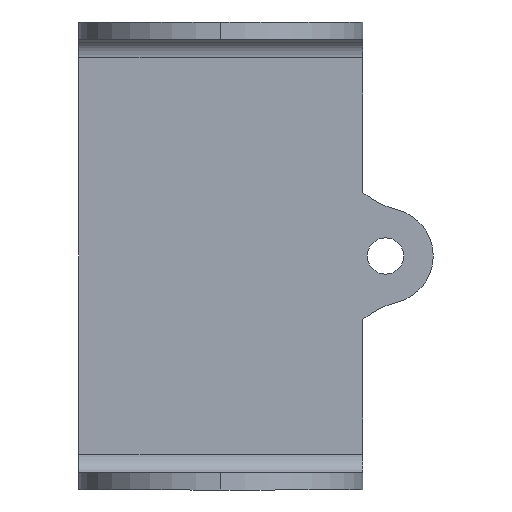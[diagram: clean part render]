
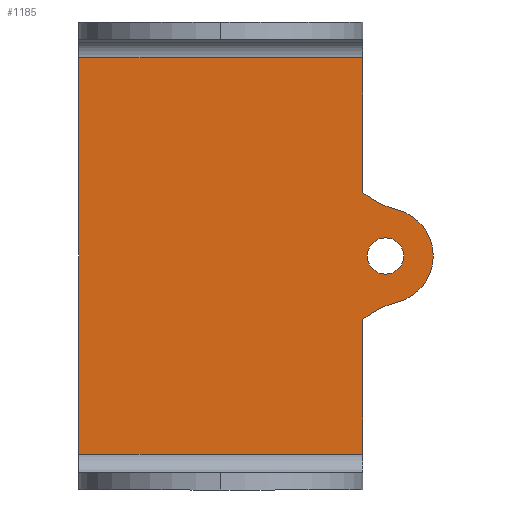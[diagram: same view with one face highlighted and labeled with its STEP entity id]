
A CAD part, front view. The second image highlights one B-rep face of the part: STEP entity #1185.
In plain terms, the highlighted planar face has unit normal (0, -1, 0).
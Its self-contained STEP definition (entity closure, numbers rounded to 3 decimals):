
#1 = VECTOR ( 'NONE', #1563, 1000. ) ;
#4 = AXIS2_PLACEMENT_3D ( 'NONE', #365, #1589, #1123 ) ;
#15 = DIRECTION ( 'NONE',  ( 0., 0., -1. ) ) ;
#38 = VERTEX_POINT ( 'NONE', #1289 ) ;
#46 = VECTOR ( 'NONE', #588, 1000. ) ;
#54 = AXIS2_PLACEMENT_3D ( 'NONE', #1060, #192, #461 ) ;
#100 = AXIS2_PLACEMENT_3D ( 'NONE', #733, #251, #1502 ) ;
#117 = CARTESIAN_POINT ( 'NONE',  ( 17.5, -1.5, -11.827 ) ) ;
#135 = CARTESIAN_POINT ( 'NONE',  ( -12.5, -1.5, -17.45 ) ) ;
#156 = CARTESIAN_POINT ( 'NONE',  ( -12.5, -1.5, 19.1 ) ) ;
#169 = ORIENTED_EDGE ( 'NONE', *, *, #1446, .T. ) ;
#170 = LINE ( 'NONE', #156, #490 ) ;
#172 = CARTESIAN_POINT ( 'NONE',  ( 12.5, -1.5, 19.1 ) ) ;
#179 = ORIENTED_EDGE ( 'NONE', *, *, #525, .F. ) ;
#192 = DIRECTION ( 'NONE',  ( 0., -1., 0. ) ) ;
#219 = ORIENTED_EDGE ( 'NONE', *, *, #1575, .F. ) ;
#230 = ORIENTED_EDGE ( 'NONE', *, *, #726, .F. ) ;
#251 = DIRECTION ( 'NONE',  ( 0., 1., 0. ) ) ;
#334 = CARTESIAN_POINT ( 'NONE',  ( 15.533, -1.5, 4.072 ) ) ;
#365 = CARTESIAN_POINT ( 'NONE',  ( 14.5, -1.5, 0. ) ) ;
#376 = DIRECTION ( 'NONE',  ( 0., -1., 0. ) ) ;
#409 = CARTESIAN_POINT ( 'NONE',  ( 12.5, -1.5, -5.582 ) ) ;
#431 = AXIS2_PLACEMENT_3D ( 'NONE', #1151, #1287, #683 ) ;
#461 = DIRECTION ( 'NONE',  ( 0., 0., -1. ) ) ;
#464 = CIRCLE ( 'NONE', #54, 4.201 ) ;
#473 = VERTEX_POINT ( 'NONE', #409 ) ;
#490 = VECTOR ( 'NONE', #1397, 1000. ) ;
#500 = DIRECTION ( 'NONE',  ( 0., 0., -1. ) ) ;
#514 = FACE_OUTER_BOUND ( 'NONE', #1543, .T. ) ;
#519 = ORIENTED_EDGE ( 'NONE', *, *, #546, .T. ) ;
#520 = CIRCLE ( 'NONE', #4, 1.6 ) ;
#525 = EDGE_CURVE ( 'NONE', #473, #38, #1031, .T. ) ;
#537 = AXIS2_PLACEMENT_3D ( 'NONE', #117, #993, #640 ) ;
#546 = EDGE_CURVE ( 'NONE', #712, #894, #1132, .T. ) ;
#549 = ORIENTED_EDGE ( 'NONE', *, *, #1365, .F. ) ;
#578 = EDGE_CURVE ( 'NONE', #38, #1165, #1277, .T. ) ;
#588 = DIRECTION ( 'NONE',  ( -1., 0., 0. ) ) ;
#614 = VERTEX_POINT ( 'NONE', #1584 ) ;
#640 = DIRECTION ( 'NONE',  ( 0., 0., -1. ) ) ;
#666 = CARTESIAN_POINT ( 'NONE',  ( 14.5, -1.5, 1.6 ) ) ;
#683 = DIRECTION ( 'NONE',  ( 0., 0., -1. ) ) ;
#694 = AXIS2_PLACEMENT_3D ( 'NONE', #1485, #376, #15 ) ;
#712 = VERTEX_POINT ( 'NONE', #334 ) ;
#715 = CARTESIAN_POINT ( 'NONE',  ( 12.5, -1.5, 17.45 ) ) ;
#726 = EDGE_CURVE ( 'NONE', #975, #894, #1119, .T. ) ;
#733 = CARTESIAN_POINT ( 'NONE',  ( 0., -1.5, 0. ) ) ;
#747 = EDGE_CURVE ( 'NONE', #473, #958, #1232, .T. ) ;
#762 = EDGE_CURVE ( 'NONE', #614, #925, #1393, .T. ) ;
#803 = CARTESIAN_POINT ( 'NONE',  ( 12.5, -1.5, 5.582 ) ) ;
#819 = VECTOR ( 'NONE', #1161, 1000. ) ;
#869 = EDGE_LOOP ( 'NONE', ( #917, #219 ) ) ;
#894 = VERTEX_POINT ( 'NONE', #803 ) ;
#911 = EDGE_CURVE ( 'NONE', #1165, #1379, #170, .T. ) ;
#917 = ORIENTED_EDGE ( 'NONE', *, *, #762, .F. ) ;
#925 = VERTEX_POINT ( 'NONE', #666 ) ;
#958 = VERTEX_POINT ( 'NONE', #1591 ) ;
#964 = CARTESIAN_POINT ( 'NONE',  ( 12.5, -1.5, -17.45 ) ) ;
#975 = VERTEX_POINT ( 'NONE', #715 ) ;
#993 = DIRECTION ( 'NONE',  ( 0., 1., 0. ) ) ;
#1006 = FACE_BOUND ( 'NONE', #869, .T. ) ;
#1031 = LINE ( 'NONE', #172, #819 ) ;
#1053 = VECTOR ( 'NONE', #500, 1000. ) ;
#1060 = CARTESIAN_POINT ( 'NONE',  ( 14.5, -1.5, 0. ) ) ;
#1100 = PLANE ( 'NONE',  #100 ) ;
#1119 = LINE ( 'NONE', #1126, #1053 ) ;
#1123 = DIRECTION ( 'NONE',  ( 0., 0., -1. ) ) ;
#1126 = CARTESIAN_POINT ( 'NONE',  ( 12.5, -1.5, 19.1 ) ) ;
#1132 = CIRCLE ( 'NONE', #431, 8. ) ;
#1151 = CARTESIAN_POINT ( 'NONE',  ( 17.5, -1.5, 11.827 ) ) ;
#1161 = DIRECTION ( 'NONE',  ( 0., 0., -1. ) ) ;
#1165 = VERTEX_POINT ( 'NONE', #135 ) ;
#1185 = ADVANCED_FACE ( 'NONE', ( #514, #1006 ), #1100, .F. ) ;
#1216 = ORIENTED_EDGE ( 'NONE', *, *, #747, .T. ) ;
#1232 = CIRCLE ( 'NONE', #537, 8. ) ;
#1277 = LINE ( 'NONE', #964, #46 ) ;
#1287 = DIRECTION ( 'NONE',  ( 0., 1., 0. ) ) ;
#1289 = CARTESIAN_POINT ( 'NONE',  ( 12.5, -1.5, -17.45 ) ) ;
#1365 = EDGE_CURVE ( 'NONE', #1379, #975, #1457, .T. ) ;
#1379 = VERTEX_POINT ( 'NONE', #1427 ) ;
#1393 = CIRCLE ( 'NONE', #694, 1.6 ) ;
#1397 = DIRECTION ( 'NONE',  ( 0., 0., 1. ) ) ;
#1427 = CARTESIAN_POINT ( 'NONE',  ( -12.5, -1.5, 17.45 ) ) ;
#1446 = EDGE_CURVE ( 'NONE', #958, #712, #464, .T. ) ;
#1456 = ORIENTED_EDGE ( 'NONE', *, *, #911, .F. ) ;
#1457 = LINE ( 'NONE', #1582, #1 ) ;
#1485 = CARTESIAN_POINT ( 'NONE',  ( 14.5, -1.5, 0. ) ) ;
#1497 = ORIENTED_EDGE ( 'NONE', *, *, #578, .F. ) ;
#1502 = DIRECTION ( 'NONE',  ( 0., 0., 1. ) ) ;
#1543 = EDGE_LOOP ( 'NONE', ( #1497, #179, #1216, #169, #519, #230, #549, #1456 ) ) ;
#1563 = DIRECTION ( 'NONE',  ( 1., 0., 0. ) ) ;
#1575 = EDGE_CURVE ( 'NONE', #925, #614, #520, .T. ) ;
#1582 = CARTESIAN_POINT ( 'NONE',  ( -12.5, -1.5, 17.45 ) ) ;
#1584 = CARTESIAN_POINT ( 'NONE',  ( 14.5, -1.5, -1.6 ) ) ;
#1589 = DIRECTION ( 'NONE',  ( 0., -1., 0. ) ) ;
#1591 = CARTESIAN_POINT ( 'NONE',  ( 15.533, -1.5, -4.072 ) ) ;
